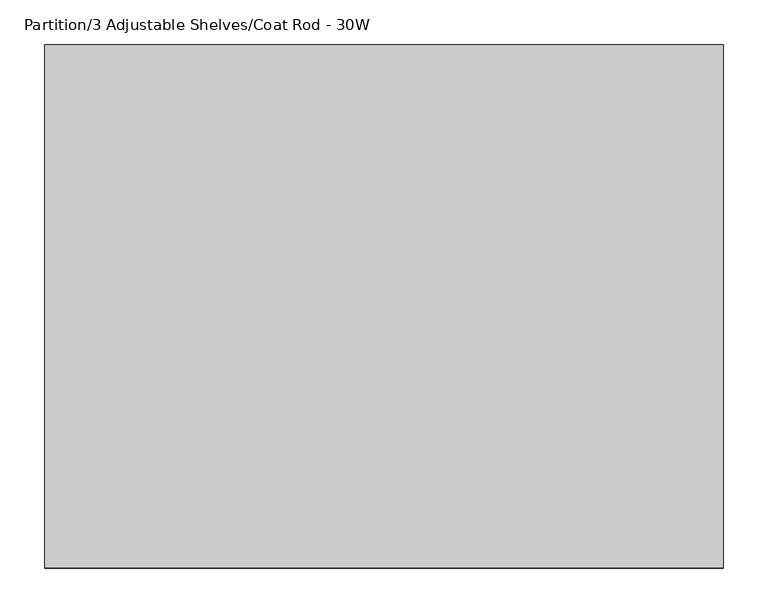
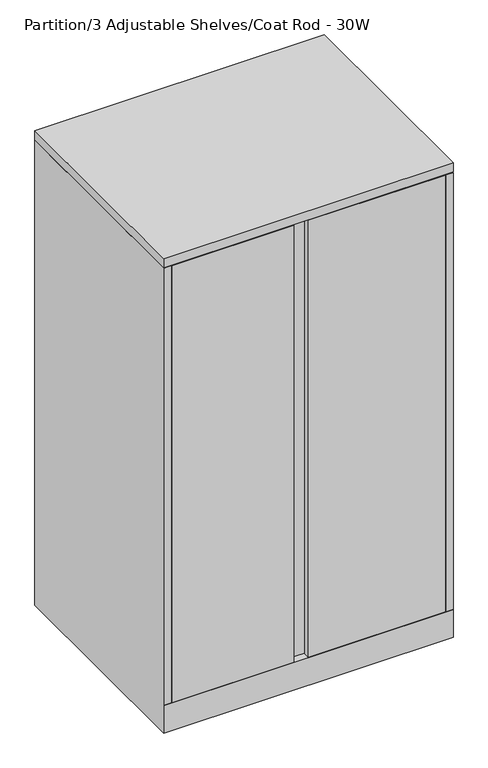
"""IFC4 building model written with IfcOpenShell, lengths in millimetres: furniture geometry, Steelcase - Universal Storage - Cabinet - Wardrobe - 52H - Flush Steel : Partition/3 Adjustable Shelves/Coat Rod - 30W."""

import ifcopenshell
import ifcopenshell.guid

model = None  # the IFC model being written
_history = None  # IfcOwnerHistory: only IFC2X3 demands one
_inside = {}  # id of a spatial element -> (the spatial element, [elements in it])
_under = {}  # id of a project, library or spatial element -> (it, [spatial elements below it])
_declared = {}  # id of a project -> (the project, [libraries it declares])
_typed = {}  # id of a type object -> (the type object, [elements of that type])
_made_of = {}  # id of a material, layer set ... -> (it, [elements and type objects made of it])


def new_model(schema):
    """Start an empty IFC model of exactly this schema.

    Asked for "IFC4X3", IfcOpenShell would pick the latest addendum, in which some entities
    have other attributes; the version numbers below select the first issue.
    IFC2X3 requires an IfcOwnerHistory on every rooted entity: one is made here for all.
    """
    global model, _history
    if schema == "IFC4X3":
        model = ifcopenshell.file(schema_version=(4, 3, 0, 0))
    else:
        model = ifcopenshell.file(schema=schema)
    _inside.clear()
    _under.clear()
    _declared.clear()
    _typed.clear()
    _made_of.clear()
    _history = None
    if model.schema == "IFC2X3":
        org = make("IfcOrganization", Name="unknown")
        user = make(
            "IfcPersonAndOrganization",
            ThePerson=make("IfcPerson", FamilyName="unknown"),
            TheOrganization=org,
        )
        app = make(
            "IfcApplication",
            ApplicationDeveloper=org,
            Version="unknown",
            ApplicationFullName="unknown",
            ApplicationIdentifier="unknown",
        )
        _history = make(
            "IfcOwnerHistory",
            OwningUser=user,
            OwningApplication=app,
            ChangeAction="ADDED",
            CreationDate=0,
        )
    return model


def make(cls, **values):
    """One entity of the class cls with the attributes given. An attribute that is None is left unset."""
    return model.create_entity(
        cls, **{name: value for name, value in values.items() if value is not None}
    )


def rooted(cls, **values):
    """An entity with a GlobalId (a new one), such as an element, a storey or a relation."""
    return make(cls, GlobalId=ifcopenshell.guid.new(), OwnerHistory=_history, **values)


def si_unit(unit_type, name, prefix=None):
    """IfcSIUnit, for example si_unit("LENGTHUNIT", "METRE", prefix="MILLI")."""
    return make("IfcSIUnit", UnitType=unit_type, Prefix=prefix, Name=name)


def assignment(units):
    """IfcUnitAssignment: the units of a project."""
    return None if units is None else make("IfcUnitAssignment", Units=units)


def point(xyz):
    """IfcCartesianPoint."""
    return None if xyz is None else make("IfcCartesianPoint", Coordinates=xyz)


def direction(xyz):
    """IfcDirection."""
    return None if xyz is None else make("IfcDirection", DirectionRatios=xyz)


def frame(location, z_axis=None, x_axis=None):
    """IfcAxis2Placement3D, a coordinate frame: its origin and axes. An axis left out is left unset."""
    return make(
        "IfcAxis2Placement3D",
        Location=point(location),
        Axis=direction(z_axis),
        RefDirection=direction(x_axis),
    )


def origin():
    """The frame at (0, 0, 0) with its axes left unset."""
    return frame((0.0, 0.0, 0.0))


def place(relative_to, where):
    """IfcLocalPlacement: puts the frame where relative to a parent placement (None: the world)."""
    return make(
        "IfcLocalPlacement", PlacementRelTo=relative_to, RelativePlacement=where
    )


def context(
    kind, dimensions, precision=None, world=None, true_north=None, identifier=None
):
    """IfcGeometricRepresentationContext, for example the 3D "Model" context."""
    return make(
        "IfcGeometricRepresentationContext",
        ContextIdentifier=identifier,
        ContextType=kind,
        CoordinateSpaceDimension=dimensions,
        Precision=precision,
        WorldCoordinateSystem=world,
        TrueNorth=true_north,
    )


def project(units=None, contexts=None):
    """IfcProject with its units and contexts."""
    return rooted(
        "IfcProject",
        Name="project",
        RepresentationContexts=contexts,
        UnitsInContext=assignment(units),
    )


def spatial(cls, under=None, at=None, **own):
    """A site, building, storey or space (cls), placed at a placement, below another one or the project."""
    s = rooted(cls, ObjectPlacement=at, **own)
    if under is not None:
        _under.setdefault(under.id(), (under, []))[1].append(s)
    return s


def polyline(points):
    """IfcPolyline through the points."""
    return make("IfcPolyline", Points=[point(p) for p in points])


def outline(outer, holes=None, kind="AREA"):
    """IfcArbitraryClosedProfileDef: a profile drawn as a closed curve; with holes, ...WithVoids."""
    if holes is None:
        return make("IfcArbitraryClosedProfileDef", ProfileType=kind, OuterCurve=outer)
    return make(
        "IfcArbitraryProfileDefWithVoids",
        ProfileType=kind,
        OuterCurve=outer,
        InnerCurves=holes,
    )


def extrude(swept, where, along, depth):
    """IfcExtrudedAreaSolid: the profile swept, set in the frame where, extruded along a direction by depth."""
    return make(
        "IfcExtrudedAreaSolid",
        SweptArea=swept,
        Position=where,
        ExtrudedDirection=direction(along),
        Depth=depth,
    )


def faces_of(points, faces, orient=None, outer=None):
    """IfcFace entities. A face is a list of loops; a loop is a list of indices into points, from 0.

    orient and outer hold one flag for each loop. By default every Orientation is true, the
    first loop of a face is its IfcFaceOuterBound and the others are IfcFaceBound.
    """
    made = []
    for i, loops in enumerate(faces):
        bounds = []
        for j, loop in enumerate(loops):
            is_outer = j == 0 if outer is None else outer[i][j]
            bounds.append(
                make(
                    "IfcFaceOuterBound" if is_outer else "IfcFaceBound",
                    Bound=make("IfcPolyLoop", Polygon=[points[k] for k in loop]),
                    Orientation=True if orient is None else orient[i][j],
                )
            )
        made.append(make("IfcFace", Bounds=bounds))
    return made


def faceted_brep(points, faces, orient=None, outer=None, voids=None):
    """IfcFacetedBrep: a solid bounded by flat faces; with voids (closed shells), ...WithVoids."""
    shared = [point(p) for p in points]
    hull = make("IfcClosedShell", CfsFaces=faces_of(shared, faces, orient, outer))
    if voids is None:
        return make("IfcFacetedBrep", Outer=hull)
    return make(
        "IfcFacetedBrepWithVoids",
        Outer=hull,
        Voids=[
            make(cls, CfsFaces=faces_of(shared, fs, o, b)) for cls, fs, o, b in voids
        ],
    )


def shape(context_of_items, identifier, shape_type, items):
    """IfcShapeRepresentation: the items that make up one representation, for example the "Body"."""
    return make(
        "IfcShapeRepresentation",
        ContextOfItems=context_of_items,
        RepresentationIdentifier=identifier,
        RepresentationType=shape_type,
        Items=items,
    )


def source(mapping_origin, context_of_items, identifier, shape_type, items):
    """IfcRepresentationMap: a shape defined once, which mapped items show again and again."""
    return make(
        "IfcRepresentationMap",
        MappingOrigin=mapping_origin,
        MappedRepresentation=shape(context_of_items, identifier, shape_type, items),
    )


def transform(
    local_origin,
    x_axis=None,
    y_axis=None,
    z_axis=None,
    scale=None,
    scale2=None,
    scale3=None,
    uniform=True,
):
    """IfcCartesianTransformationOperator3D, or its non-uniform kind. x_axis, y_axis, z_axis: its Axis1, 2, 3."""
    if uniform:
        return make(
            "IfcCartesianTransformationOperator3D",
            Axis1=direction(x_axis),
            Axis2=direction(y_axis),
            LocalOrigin=point(local_origin),
            Scale=scale,
            Axis3=direction(z_axis),
        )
    return make(
        "IfcCartesianTransformationOperator3DnonUniform",
        Axis1=direction(x_axis),
        Axis2=direction(y_axis),
        LocalOrigin=point(local_origin),
        Scale=scale,
        Axis3=direction(z_axis),
        Scale2=scale2,
        Scale3=scale3,
    )


def mapped(mapping_source, mapping_target):
    """IfcMappedItem: shows the shape of a source again, moved by a transform."""
    return make(
        "IfcMappedItem", MappingSource=mapping_source, MappingTarget=mapping_target
    )


def made_of(thing, what):
    """Note that an element or type object is made of a material, layer set ...; save() writes the relation."""
    if what is not None:
        _made_of.setdefault(what.id(), (what, []))[1].append(thing)
    return thing


def element(
    cls,
    number,
    at=None,
    inside=None,
    cuts=None,
    type_object=None,
    material=None,
    context=None,
    identifier="Body",
    shape_type=None,
    held_by="IfcProductDefinitionShape",
    body=None,
    shapes=None,
    **own,
):
    """One element of the class cls, such as IfcWall. Its Tag is "e" and its number.

    at: its placement. inside: the storey or other place that contains it. cuts: it is an
    opening in that element (IfcRelVoidsElement). A single representation is given by context,
    identifier, shape_type and body (its items); several are given by shapes. held_by: the class
    of the entity that holds the representations. save() writes the other relations.
    """
    e = rooted(cls, Tag="e%d" % number, ObjectPlacement=at, **own)
    if body is not None:
        shapes = [shape(context, identifier, shape_type, body)]
    if shapes is not None:
        e.Representation = make(held_by, Representations=shapes)
    if inside is not None:
        _inside.setdefault(inside.id(), (inside, []))[1].append(e)
    if cuts is not None:
        rooted(
            "IfcRelVoidsElement", RelatingBuildingElement=cuts, RelatedOpeningElement=e
        )
    if type_object is not None:
        _typed.setdefault(type_object.id(), (type_object, []))[1].append(e)
    return made_of(e, material)


def aggregate(whole, parts):
    """IfcRelAggregates: a whole, such as a stair, and the parts it consists of."""
    return rooted("IfcRelAggregates", RelatingObject=whole, RelatedObjects=parts)


def save(model, path):
    """Write the relations noted so far, then the file.

    IfcRelAggregates (storeys below a building ...), IfcRelContainedInSpatialStructure (elements
    in a storey), IfcRelDefinesByType, IfcRelAssociatesMaterial and IfcRelDeclares: one each for
    every whole, place, type object, material and project.
    """
    for whole, parts in _under.values():
        aggregate(whole, parts)
    for where, things in _inside.values():
        rooted(
            "IfcRelContainedInSpatialStructure",
            RelatedElements=things,
            RelatingStructure=where,
        )
    for kind, things in _typed.values():
        rooted("IfcRelDefinesByType", RelatedObjects=things, RelatingType=kind)
    for what, things in _made_of.values():
        rooted("IfcRelAssociatesMaterial", RelatedObjects=things, RelatingMaterial=what)
    for by, libraries in _declared.values():
        rooted("IfcRelDeclares", RelatingContext=by, RelatedDefinitions=libraries)
    model.write(path)


def partition_3_adjustable_shelves_coat_rod_30w_e79ca146(model_context):
    return source(origin(), model_context, "Body", "SolidModel", [
        extrude(outline(polyline([(762.0, 0.0), (762.0, -587.502), (0.0, -587.502), (0.0, 0.0), (762.0, 0.0)])), frame((0.0, 0.0, 1295.3999516), z_axis=(0.0, 0.0, 1.0), x_axis=(1.0, 0.0, 0.0)), (0.0, 0.0, 1.0), 25.4),
        extrude(outline(polyline([(20.8280006, -561.975866), (741.172, -561.975866), (741.172, -587.502), (381.0, -587.502), (381.0, -568.3258781), (342.9, -568.3258781), (342.9, -587.502), (20.8280006, -587.502), (20.8280006, -561.975866)])), frame((0.0, 0.0, 77.724), z_axis=(0.0, 0.0, 1.0), x_axis=(1.0, 0.0, 0.0)), (0.0, 0.0, 1.0), 1216.152),
        faceted_brep([(762.0, 0.0, 0.0), (762.0, -587.502, 0.0), (0.0, -587.502, 0.0), (0.0, 0.0, 0.0), (0.0, 0.0, 1293.876), (762.0, 0.0, 1293.876), (0.0, -587.502, 76.2), (0.0, -587.502, 77.724), (0.0, -587.502, 1293.876), (762.0, -587.502, 76.2), (762.0, -587.502, 1293.876), (762.0, -587.502, 77.724), (736.6000242, -25.4000008, 1293.876), (736.6000242, -560.4518674, 1293.876), (741.172, -560.4518674, 1293.876), (741.172, -561.9758781, 1293.876), (742.696, -561.9758781, 1293.876), (742.696, -587.502, 1293.876), (19.304, -587.502, 1293.876), (19.304, -561.975866, 1293.876), (20.8280006, -561.975866, 1293.876), (20.8280006, -560.4518674, 1293.876), (25.4000008, -560.4518674, 1293.876), (25.4000008, -25.4000008, 1293.876), (19.304, -587.502, 77.724), (19.304, -568.198, 77.724), (742.696, -587.502, 77.724), (742.696, -568.0718418, 77.724), (736.6000242, -25.4000008, 77.724), (736.6000242, -560.4518674, 77.724), (741.172, -560.4518674, 77.724), (741.172, -561.9758781, 77.724), (742.696, -561.9758781, 77.724), (19.304, -561.975866, 77.724), (20.8280006, -561.975866, 77.724), (20.8280006, -560.4518674, 77.724), (25.4000008, -560.4518674, 77.724), (25.4000008, -25.4000008, 77.724), (25.526134, -561.975866, 77.724), (736.6000242, -561.975866, 77.724)], [[[0, 1, 2, 3]], [[0, 3, 4, 5]], [[4, 3, 2, 6, 7, 8]], [[2, 1, 9, 6]], [[1, 0, 5, 10, 11, 9]], [[12, 13, 14, 15, 16, 17, 10, 5, 4, 8, 18, 19, 20, 21, 22, 23]], [[24, 7, 25]], [[11, 26, 27]], [[13, 12, 28, 29]], [[14, 13, 29, 30]], [[15, 14, 30, 31]], [[16, 15, 31, 32]], [[17, 16, 32, 27, 26]], [[10, 17, 26, 11]], [[18, 8, 7, 24]], [[19, 18, 24, 25, 33]], [[20, 19, 33, 34]], [[21, 20, 34, 35]], [[22, 21, 35, 36]], [[23, 22, 36, 37]], [[12, 23, 37, 28]], [[38, 39, 27, 32, 31, 30, 29, 28, 37, 36, 35, 34, 33, 25]], [[7, 6, 38, 25]], [[39, 38, 6, 9]], [[39, 9, 11, 27]]]),
    ])


if __name__ == "__main__":
    model = new_model("IFC4")
    model_context = context("Model", 3, world=origin())
    ifc_project = project(units=[si_unit("LENGTHUNIT", "METRE", prefix="MILLI")], contexts=[model_context])
    site = spatial("IfcSite", under=ifc_project)
    building = spatial("IfcBuilding", under=site)
    placement = place(None, origin())
    partition_3_adjustable_shelves_coat_rod_30w_shape = partition_3_adjustable_shelves_coat_rod_30w_e79ca146(model_context)
    element("IfcFurniture", 1, ObjectType="Steelcase - Universal Storage - Cabinet - Wardrobe - 52H - Flush Steel : Partition/3 Adjustable Shelves/Coat Rod - 30W", at=placement, inside=building, context=model_context, shape_type="MappedRepresentation", body=[
        mapped(partition_3_adjustable_shelves_coat_rod_30w_shape, transform((0.0, 0.0, 0.0), x_axis=(1.0, 0.0, 0.0), y_axis=(0.0, 1.0, 0.0), z_axis=(0.0, 0.0, 1.0))),
    ])
    save(model, "model.ifc")
